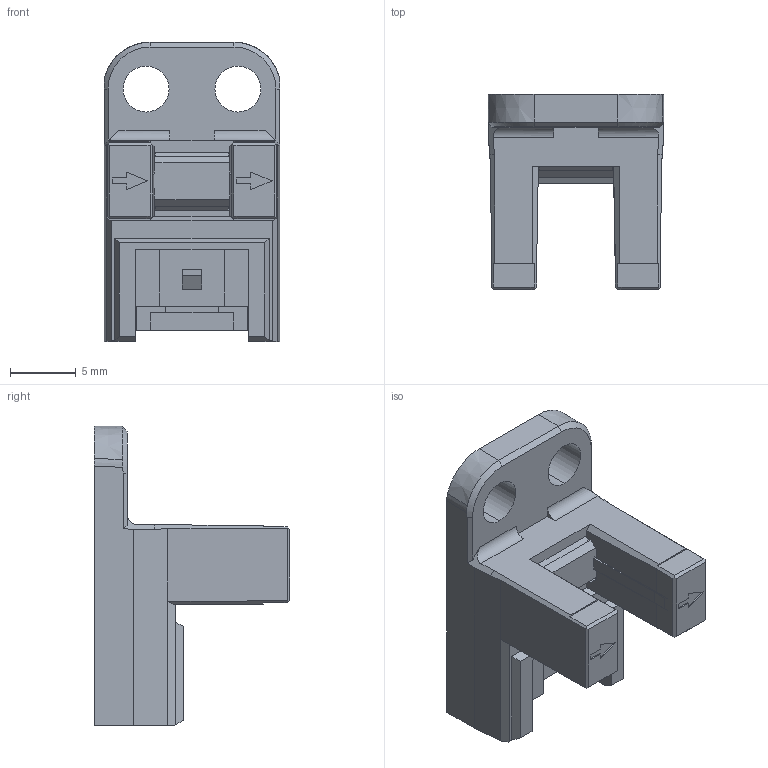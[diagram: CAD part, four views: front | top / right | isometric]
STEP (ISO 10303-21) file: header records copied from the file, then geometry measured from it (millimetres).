
FILE_DESCRIPTION (( 'STEP AP214' ), '1' );
FILE_NAME ('PU-Y68.STEP', '2023-06-28T03:11:50', ( 'Windows User' ), ( 'P R C' ), 'SwSTEP 2.0', 'SolidWorks 2022', '' );
FILE_SCHEMA (( 'AUTOMOTIVE_DESIGN' ));
Length unit declared in the file: millimetre
Products named in the file (7): PU-Y68; SD2008748-PU-Y68外壳-A2; SD1705284-PU-Y68公端插件-A0; 插件; SD2008739-PU-68导光柱-A0; SD2008749-PU-Y68插件支架-A0; 插针
Assembly tree (9 placements, depth 3):
  PU-Y68
    SD2008748-PU-Y68外壳-A2
    SD2008749-PU-Y68插件支架-A0
    SD1705284-PU-Y68公端插件-A0
      插件
      插针  x4
    SD2008739-PU-68导光柱-A0
Bounding box: 13.4 x 14.9 x 22.86 mm (x, y, z)
Volume: 1230.3 mm3; surface area: 3270.2 mm2
Topology: 8 solids, 8 shells, 518 faces, 1378 edges, 891 vertices
Faces by surface type: plane 468, cylinder 44, cone 4, bspline 2
Entity records: 14603 total; most frequent: CARTESIAN_POINT 2612, ORIENTED_EDGE 2504, DIRECTION 2246, EDGE_CURVE 1252, LINE 1172, VECTOR 1172, VERTEX_POINT 819, AXIS2_PLACEMENT_3D 537
